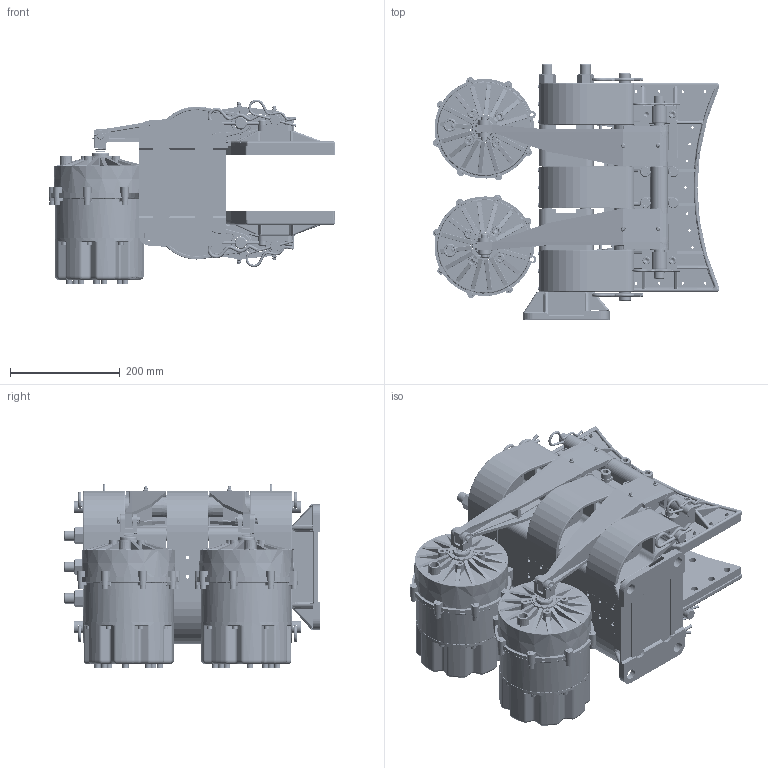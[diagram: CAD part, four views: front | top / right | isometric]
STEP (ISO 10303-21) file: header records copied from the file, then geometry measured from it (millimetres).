
FILE_DESCRIPTION (( 'STEP AP214' ), '1' );
FILE_NAME ('5026-SA-LH.STEP', '2015-11-13T23:50:45', ( '' ), ( '' ), 'SwSTEP 2.0', 'SolidWorks 2015', '' );
FILE_SCHEMA (( 'AUTOMOTIVE_DESIGN' ));
Length unit declared in the file: inch
Products named in the file (1): 5026-SA-LH
Bounding box: 523.33 x 466.09 x 337.03 mm (x, y, z)
Surface area: 2337997.5 mm2 (no closed solid volume)
Topology: 0 solids, 295 shells, 4521 faces, 15245 edges, 10545 vertices
Faces by surface type: cylinder 1634, plane 1567, cone 566, torus 518, bspline 210, sphere 26
Entity records: 246739 total; most frequent: CARTESIAN_POINT 59672, DIRECTION 27792, ORIENTED_EDGE 24155, EDGE_CURVE 15084, AXIS2_PLACEMENT_3D 10927, VERTEX_POINT 10545, CIRCLE 6615, LINE 5938
